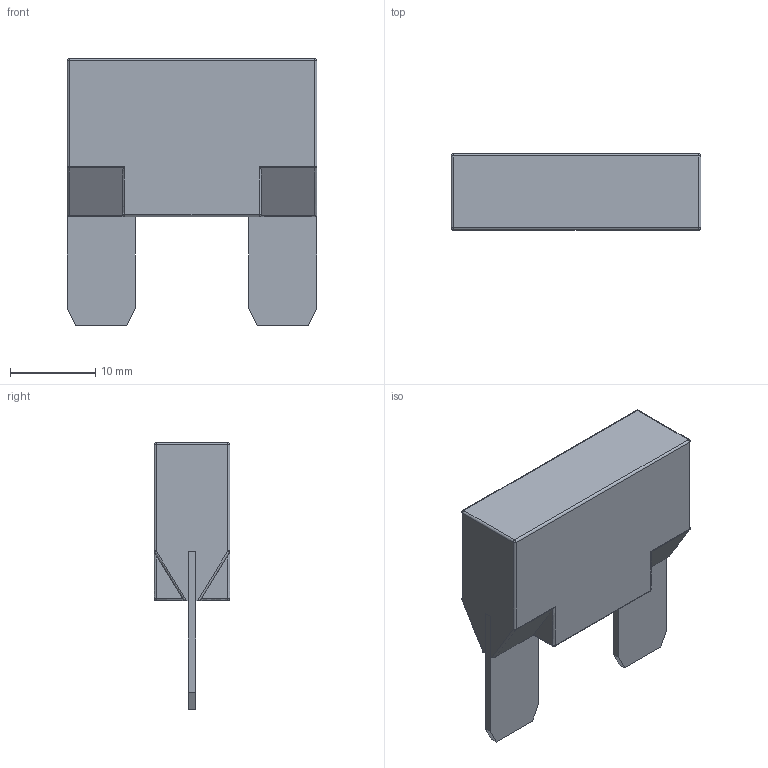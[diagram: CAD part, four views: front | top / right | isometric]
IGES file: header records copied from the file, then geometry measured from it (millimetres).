
Global section: file name: No Iges File Name specified; native system: AutoDesk Inventor R6.0; preprocessor: AutoDesk Inventor Iges Exporter R6.0; author: No Author specified; organization: No Organization specified; date: 20051231.085526; units: inch
Bounding box: 29.25 x 8.9 x 31.25 mm (x, y, z)
Surface area: 2698.5 mm2 (no closed solid volume)
Topology: 0 solids, 0 shells, 80 faces, 380 edges, 372 vertices
Faces by surface type: revolution 42, plane 30, bspline 8
